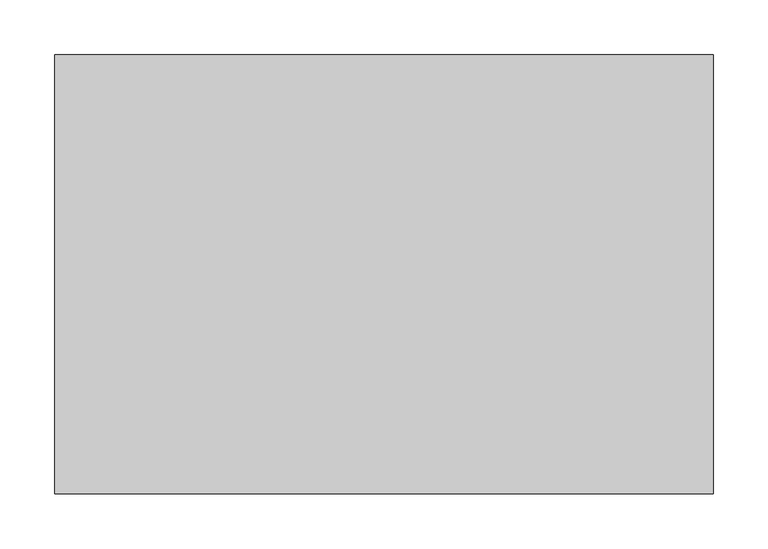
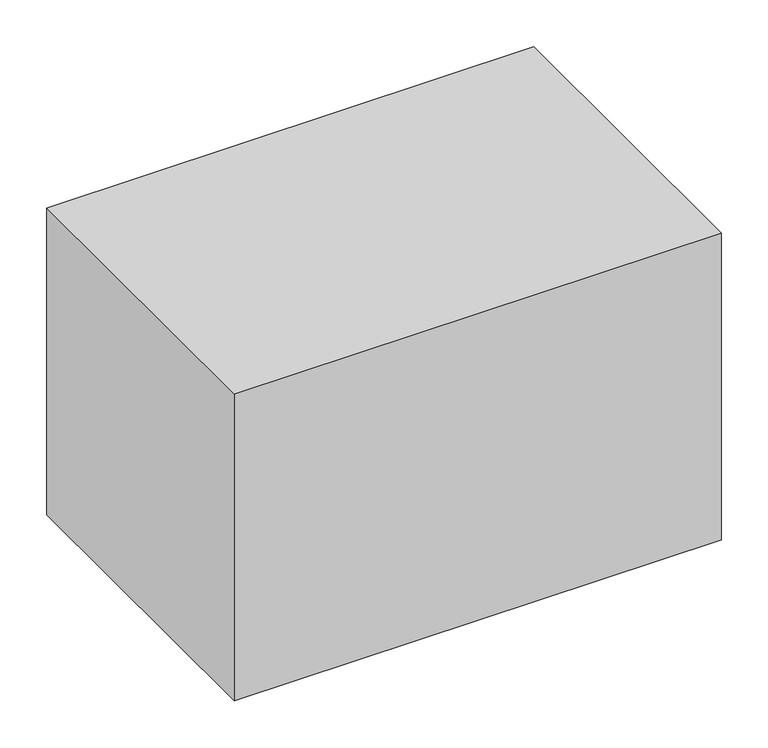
"""IFC4 building model written with IfcOpenShell, lengths in millimetres: proxy geometry, Movél13 : Movél."""

from ifc_helpers import new_model, si_unit, frame, origin, place, context, project, spatial, polyline, outline, extrude, source, transform, mapped, element, save


def generic_models_21f6bfd0(model_context):
    return source(origin(), model_context, "Body", "SweptSolid", [
        extrude(outline(polyline([(24358.421149, 22026.5765577), (24358.421149, 21626.5765577), (23758.421149, 21626.5765577), (23758.421149, 22026.5765577), (24358.421149, 22026.5765577)])), frame((0.0, 0.0, 400.0), z_axis=(0.0, 0.0, 1.0), x_axis=(1.0, 0.0, 0.0)), (0.0, 0.0, 1.0), 400.0),
    ])


if __name__ == "__main__":
    model = new_model("IFC4")
    model_context = context("Model", 3, world=origin())
    ifc_project = project(units=[si_unit("LENGTHUNIT", "METRE", prefix="MILLI")], contexts=[model_context])
    site = spatial("IfcSite", under=ifc_project)
    building = spatial("IfcBuilding", under=site)
    placement = place(None, origin())
    generic_models_shape = generic_models_21f6bfd0(model_context)
    element("IfcBuildingElementProxy", 1, Name="Movél13 : Movél", ObjectType="Movél13 : Movél", at=placement, inside=building, context=model_context, shape_type="MappedRepresentation", body=[
        mapped(generic_models_shape, transform((0.0, 0.0, 0.0), x_axis=(1.0, 0.0, 0.0), y_axis=(0.0, 1.0, 0.0), z_axis=(0.0, 0.0, 1.0))),
    ])
    save(model, "model.ifc")
